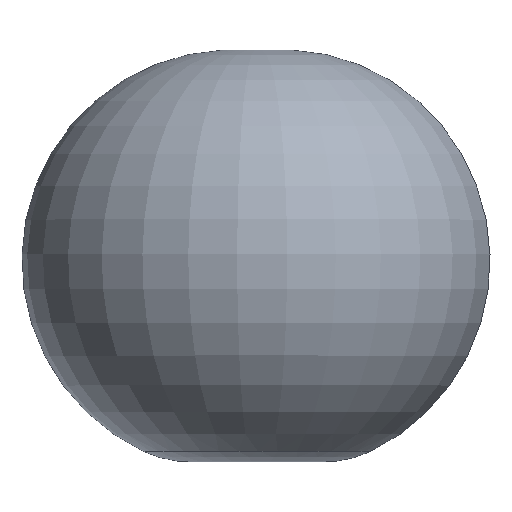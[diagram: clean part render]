
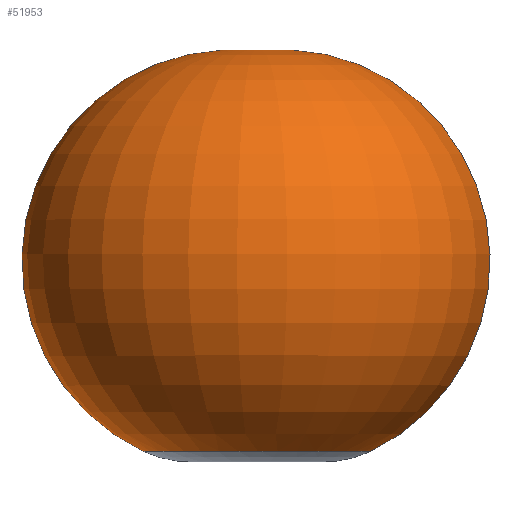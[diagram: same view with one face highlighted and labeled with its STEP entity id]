
A CAD part, top view. The second image highlights one B-rep face of the part: STEP entity #51953.
In plain terms, the highlighted toroidal (fillet/blend) face has major radius 150 mm and minor radius 1250 mm.
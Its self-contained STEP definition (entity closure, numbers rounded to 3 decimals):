
#32094 = FACE_OUTER_BOUND ( 'NONE', #51954, .T. ) ;
#32156 = DIRECTION ( 'NONE',  ( 0.985, 0., -0.174 ) ) ;
#32158 = DIRECTION ( 'NONE',  ( -0.174, 0., -0.985 ) ) ;
#32159 = CARTESIAN_POINT ( 'NONE',  ( 147.721, 450., -26.047 ) ) ;
#32160 = AXIS2_PLACEMENT_3D ( 'NONE', #32159, #32158, #32156 ) ;
#32162 = CIRCLE ( 'NONE', #32160, 1250. ) ;
#32167 = DIRECTION ( 'NONE',  ( 0.985, 0., 0.174 ) ) ;
#32169 = DIRECTION ( 'NONE',  ( 0.174, 0., -0.985 ) ) ;
#32170 = CARTESIAN_POINT ( 'NONE',  ( 147.721, 450., 26.047 ) ) ;
#32171 = AXIS2_PLACEMENT_3D ( 'NONE', #32170, #32169, #32167 ) ;
#32172 = CIRCLE ( 'NONE', #32171, 1250. ) ;
#32186 = DIRECTION ( 'NONE',  ( 1., 0., 0. ) ) ;
#32187 = DIRECTION ( 'NONE',  ( 0., -1., 0. ) ) ;
#32188 = CARTESIAN_POINT ( 'NONE',  ( 0., -682.885, 0. ) ) ;
#32189 = AXIS2_PLACEMENT_3D ( 'NONE', #32188, #32187, #32186 ) ;
#32190 = CIRCLE ( 'NONE', #32189, 678.273 ) ;
#32193 = DIRECTION ( 'NONE',  ( 1., 0., 0. ) ) ;
#32195 = DIRECTION ( 'NONE',  ( 0., -1., 0. ) ) ;
#32196 = AXIS2_PLACEMENT_3D ( 'NONE', #32199, #32195, #32193 ) ;
#32197 = TOROIDAL_SURFACE ( 'NONE', #32196, 150., 1250. ) ;
#32199 = CARTESIAN_POINT ( 'NONE',  ( 0., 450., 0. ) ) ;
#32324 = CARTESIAN_POINT ( 'NONE',  ( 0., 1690.967, 0. ) ) ;
#32597 = CARTESIAN_POINT ( 'NONE',  ( 667.968, -682.885, -117.781 ) ) ;
#32600 = CARTESIAN_POINT ( 'NONE',  ( 667.968, -682.885, 117.781 ) ) ;
#51953 = ADVANCED_FACE ( 'NONE', ( #32094 ), #32197, .T. ) ;
#51954 = EDGE_LOOP ( 'NONE', ( #51955, #52043, #51964 ) ) ;
#51955 = ORIENTED_EDGE ( 'NONE', *, *, #51956, .F. ) ;
#51956 = EDGE_CURVE ( 'NONE', #52041, #52042, #32190, .T. ) ;
#51963 = EDGE_CURVE ( 'NONE', #51985, #52041, #32172, .T. ) ;
#51964 = ORIENTED_EDGE ( 'NONE', *, *, #51965, .T. ) ;
#51965 = EDGE_CURVE ( 'NONE', #51985, #52042, #32162, .T. ) ;
#51985 = VERTEX_POINT ( 'NONE', #32324 ) ;
#52041 = VERTEX_POINT ( 'NONE', #32600 ) ;
#52042 = VERTEX_POINT ( 'NONE', #32597 ) ;
#52043 = ORIENTED_EDGE ( 'NONE', *, *, #51963, .F. ) ;
